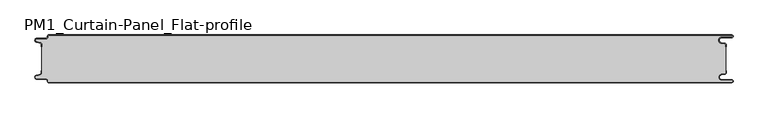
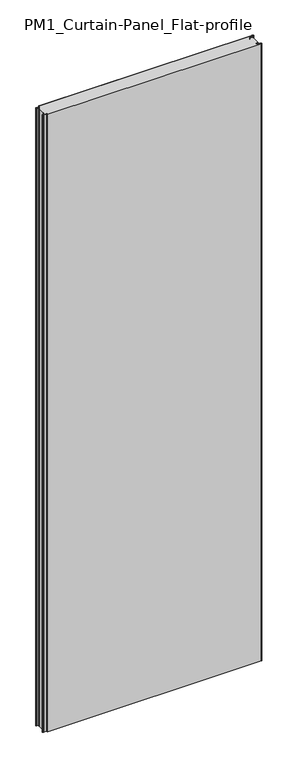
"""IFC4 building model written with IfcOpenShell, lengths in millimetres: plate geometry, PM1_Curtain-Panel_Flat-profile : ACH_PM1_Stone-wool-Panel_80M."""

from ifc_helpers import new_model, si_unit, point, frame_2d, origin, origin_with_axes, place, context, project, spatial, polyline, circle_curve, trimmed, segment, composite_curve, outline, extrude, source, transform, mapped, element, save


def pm1_curtain_panel_flat_profile_9c3fc237(model_context):
    return source(origin(), model_context, "Body", "SweptSolid", [
        extrude(outline(composite_curve([segment(polyline([(-562.4, 0.0), (583.1, 0.0)]), True, "CONTINUOUS"), segment(trimmed(circle_curve(frame_2d((583.1, -2.5)), 2.5), [point((583.1, 0.0))], [point((583.1, -5.0))], False, "CARTESIAN"), True, "CONTINUOUS"), segment(polyline([(583.1, -5.0), (566.1, -5.0)]), True, "CONTINUOUS"), segment(trimmed(circle_curve(frame_2d((566.1, -9.0)), 4.0), [point((566.1, -5.0))], [point((565.4054075, -12.939231))], True, "CARTESIAN"), True, "CONTINUOUS"), segment(polyline([(565.4054075, -12.939231), (571.8514851, -14.075848)]), True, "CONTINUOUS"), segment(trimmed(circle_curve(frame_2d((571.4, -16.636348)), 2.6), [point((571.8514851, -14.075848))], [point((574.0, -16.636348))], False, "CARTESIAN"), True, "CONTINUOUS"), segment(polyline([(574.0, -16.636348), (574.0, -20.0), (573.2, -20.0), (573.2, -16.636348)]), True, "CONTINUOUS"), segment(trimmed(circle_curve(frame_2d((571.4, -16.636348)), 1.8), [point((573.2, -16.636348))], [point((571.7125666, -14.863694))], True, "CARTESIAN"), True, "CONTINUOUS"), segment(polyline([(571.7125666, -14.863694), (565.266489, -13.7270771)]), True, "CONTINUOUS"), segment(trimmed(circle_curve(frame_2d((566.1, -9.0)), 4.8), [point((565.266489, -13.7270771))], [point((566.1, -4.2))], False, "CARTESIAN"), True, "CONTINUOUS"), segment(polyline([(566.1, -4.2), (583.1, -4.2)]), True, "CONTINUOUS"), segment(trimmed(circle_curve(frame_2d((583.1, -2.5)), 1.7), [point((583.1, -4.2))], [point((583.1, -0.8))], True, "CARTESIAN"), True, "CONTINUOUS"), segment(polyline([(583.1, -0.8), (-562.4, -0.8)]), True, "CONTINUOUS"), segment(trimmed(circle_curve(frame_2d((-562.4, -2.0)), 1.2), [point((-562.4, -0.8))], [point((-563.6, -2.0))], True, "CARTESIAN"), True, "CONTINUOUS"), segment(polyline([(-563.6, -2.0), (-563.6, -3.4)]), True, "CONTINUOUS"), segment(trimmed(circle_curve(frame_2d((-566.4, -3.4)), 2.8), [point((-563.6, -3.4))], [point((-566.4, -6.2))], False, "CARTESIAN"), True, "CONTINUOUS"), segment(polyline([(-566.4, -6.2), (-581.9, -6.2)]), True, "CONTINUOUS"), segment(trimmed(circle_curve(frame_2d((-581.9, -9.0)), 2.8), [point((-581.9, -6.2))], [point((-582.529863, -11.7282362))], True, "CARTESIAN"), True, "CONTINUOUS"), segment(polyline([(-582.529863, -11.7282362), (-576.370137, -13.150321)]), True, "CONTINUOUS"), segment(trimmed(circle_curve(frame_2d((-577.0, -15.878557)), 2.8), [point((-576.370137, -13.150321))], [point((-574.2, -15.878557))], False, "CARTESIAN"), True, "CONTINUOUS"), segment(polyline([(-574.2, -15.878557), (-574.2, -20.0), (-575.0, -20.0), (-575.0, -15.878557)]), True, "CONTINUOUS"), segment(trimmed(circle_curve(frame_2d((-577.0, -15.878557)), 2.0), [point((-575.0, -15.878557))], [point((-576.5500978, -13.9298169))], True, "CARTESIAN"), True, "CONTINUOUS"), segment(polyline([(-576.5500978, -13.9298169), (-582.7098239, -12.507732)]), True, "CONTINUOUS"), segment(trimmed(circle_curve(frame_2d((-581.9, -9.0)), 3.6), [point((-582.7098239, -12.507732))], [point((-581.9, -5.4))], False, "CARTESIAN"), True, "CONTINUOUS"), segment(polyline([(-581.9, -5.4), (-566.4, -5.4)]), True, "CONTINUOUS"), segment(trimmed(circle_curve(frame_2d((-566.4, -3.4)), 2.0), [point((-566.4, -5.4))], [point((-564.4, -3.4))], True, "CARTESIAN"), True, "CONTINUOUS"), segment(polyline([(-564.4, -3.4), (-564.4, -2.0)]), True, "CONTINUOUS"), segment(trimmed(circle_curve(frame_2d((-562.4, -2.0)), 2.0), [point((-564.4, -2.0))], [point((-562.4, 0.0))], False, "CARTESIAN"), True, "CONTINUOUS")], self_intersect=False)), origin_with_axes(), (0.0, 0.0, 1.0), 3500.0),
        extrude(outline(composite_curve([segment(polyline([(-574.2, -64.1214426), (-574.2, -15.8785573)]), True, "CONTINUOUS"), segment(trimmed(circle_curve(frame_2d((-577.0, -15.8785573)), 2.8), [point((-574.2, -15.8785573))], [point((-576.370137, -13.1503212))], True, "CARTESIAN"), True, "CONTINUOUS"), segment(polyline([(-576.370137, -13.1503212), (-582.5298631, -11.7282362)]), True, "CONTINUOUS"), segment(trimmed(circle_curve(frame_2d((-581.9, -9.0)), 2.8), [point((-582.5298631, -11.7282362))], [point((-581.9, -6.2))], False, "CARTESIAN"), True, "CONTINUOUS"), segment(polyline([(-581.9, -6.2), (-566.4000001, -6.2)]), True, "CONTINUOUS"), segment(trimmed(circle_curve(frame_2d((-566.4000001, -3.4)), 2.8), [point((-566.4000001, -6.2))], [point((-563.6000001, -3.4))], True, "CARTESIAN"), True, "CONTINUOUS"), segment(polyline([(-563.6000001, -3.4), (-563.6000001, -2.0)]), True, "CONTINUOUS"), segment(trimmed(circle_curve(frame_2d((-562.4000001, -2.0)), 1.2), [point((-563.6000001, -2.0))], [point((-562.4000001, -0.8))], False, "CARTESIAN"), True, "CONTINUOUS"), segment(polyline([(-562.4000001, -0.8), (583.1, -0.8)]), True, "CONTINUOUS"), segment(trimmed(circle_curve(frame_2d((583.1, -2.5)), 1.7), [point((583.1, -0.8))], [point((583.1, -4.2))], False, "CARTESIAN"), True, "CONTINUOUS"), segment(polyline([(583.1, -4.2), (566.1, -4.2)]), True, "CONTINUOUS"), segment(trimmed(circle_curve(frame_2d((566.1, -9.0)), 4.8), [point((566.1, -4.2))], [point((565.2664883, -13.7270771))], True, "CARTESIAN"), True, "CONTINUOUS"), segment(polyline([(565.2664883, -13.7270771), (571.7125668, -14.8636953)]), True, "CONTINUOUS"), segment(trimmed(circle_curve(frame_2d((571.4, -16.6363492)), 1.8), [point((571.7125668, -14.8636953))], [point((573.2, -16.6363492))], False, "CARTESIAN"), True, "CONTINUOUS"), segment(polyline([(573.2, -16.6363492), (573.2, -63.3636508)]), True, "CONTINUOUS"), segment(trimmed(circle_curve(frame_2d((571.4, -63.3636508)), 1.8), [point((573.2, -63.3636508))], [point((571.7125668, -65.1363047))], False, "CARTESIAN"), True, "CONTINUOUS"), segment(polyline([(571.7125668, -65.1363047), (565.2664883, -66.2729229)]), True, "CONTINUOUS"), segment(trimmed(circle_curve(frame_2d((566.1, -71.0)), 4.8), [point((565.2664883, -66.2729229))], [point((566.1, -75.8))], True, "CARTESIAN"), True, "CONTINUOUS"), segment(polyline([(566.1, -75.8), (583.1, -75.8)]), True, "CONTINUOUS"), segment(trimmed(circle_curve(frame_2d((583.1, -77.5)), 1.7), [point((583.1, -75.8))], [point((583.1, -79.2))], False, "CARTESIAN"), True, "CONTINUOUS"), segment(polyline([(583.1, -79.2), (-562.4000001, -79.2)]), True, "CONTINUOUS"), segment(trimmed(circle_curve(frame_2d((-562.4000001, -78.0)), 1.2), [point((-562.4000001, -79.2))], [point((-563.6000001, -78.0))], False, "CARTESIAN"), True, "CONTINUOUS"), segment(polyline([(-563.6000001, -78.0), (-563.6000001, -76.6)]), True, "CONTINUOUS"), segment(trimmed(circle_curve(frame_2d((-566.4000001, -76.6)), 2.8), [point((-563.6000001, -76.6))], [point((-566.4000001, -73.8))], True, "CARTESIAN"), True, "CONTINUOUS"), segment(polyline([(-566.4000001, -73.8), (-581.9, -73.8)]), True, "CONTINUOUS"), segment(trimmed(circle_curve(frame_2d((-581.9, -71.0)), 2.8), [point((-581.9, -73.8))], [point((-582.5298631, -68.2717638))], False, "CARTESIAN"), True, "CONTINUOUS"), segment(polyline([(-582.5298631, -68.2717638), (-576.370137, -66.8496788)]), True, "CONTINUOUS"), segment(trimmed(circle_curve(frame_2d((-577.0, -64.1214426)), 2.8), [point((-576.370137, -66.8496788))], [point((-574.2, -64.1214426))], True, "CARTESIAN"), True, "CONTINUOUS")], self_intersect=False)), origin_with_axes(), (0.0, 0.0, 1.0), 3500.0),
        extrude(outline(composite_curve([segment(polyline([(583.1, -80.0), (-562.4, -80.0)]), True, "CONTINUOUS"), segment(trimmed(circle_curve(frame_2d((-562.4, -78.0)), 2.0), [point((-562.4, -80.0))], [point((-564.4, -78.0))], False, "CARTESIAN"), True, "CONTINUOUS"), segment(polyline([(-564.4, -78.0), (-564.4, -76.6)]), True, "CONTINUOUS"), segment(trimmed(circle_curve(frame_2d((-566.4, -76.6)), 2.0), [point((-564.4, -76.6))], [point((-566.4, -74.6))], True, "CARTESIAN"), True, "CONTINUOUS"), segment(polyline([(-566.4, -74.6), (-581.9, -74.6)]), True, "CONTINUOUS"), segment(trimmed(circle_curve(frame_2d((-581.9, -71.0)), 3.6), [point((-581.9, -74.6))], [point((-582.7098239, -67.4922678))], False, "CARTESIAN"), True, "CONTINUOUS"), segment(polyline([(-582.7098239, -67.4922678), (-576.5500979, -66.070183)]), True, "CONTINUOUS"), segment(trimmed(circle_curve(frame_2d((-577.0, -64.121443)), 2.0), [point((-576.5500979, -66.070183))], [point((-575.0, -64.121443))], True, "CARTESIAN"), True, "CONTINUOUS"), segment(polyline([(-575.0, -64.121443), (-575.0, -60.0), (-574.2, -60.0), (-574.2, -64.121443)]), True, "CONTINUOUS"), segment(trimmed(circle_curve(frame_2d((-577.0, -64.121443)), 2.8), [point((-574.2, -64.121443))], [point((-576.370137, -66.8496792))], False, "CARTESIAN"), True, "CONTINUOUS"), segment(polyline([(-576.370137, -66.8496792), (-582.529863, -68.271764)]), True, "CONTINUOUS"), segment(trimmed(circle_curve(frame_2d((-581.9, -71.0)), 2.8), [point((-582.529863, -68.271764))], [point((-581.9, -73.8))], True, "CARTESIAN"), True, "CONTINUOUS"), segment(polyline([(-581.9, -73.8), (-566.4, -73.8)]), True, "CONTINUOUS"), segment(trimmed(circle_curve(frame_2d((-566.4, -76.6)), 2.8), [point((-566.4, -73.8))], [point((-563.6, -76.6))], False, "CARTESIAN"), True, "CONTINUOUS"), segment(polyline([(-563.6, -76.6), (-563.6, -78.0)]), True, "CONTINUOUS"), segment(trimmed(circle_curve(frame_2d((-562.4, -78.0)), 1.2), [point((-563.6, -78.0))], [point((-562.4, -79.2))], True, "CARTESIAN"), True, "CONTINUOUS"), segment(polyline([(-562.4, -79.2), (583.1, -79.2)]), True, "CONTINUOUS"), segment(trimmed(circle_curve(frame_2d((583.1, -77.5)), 1.7), [point((583.1, -79.2))], [point((583.1, -75.8))], True, "CARTESIAN"), True, "CONTINUOUS"), segment(polyline([(583.1, -75.8), (566.1, -75.8)]), True, "CONTINUOUS"), segment(trimmed(circle_curve(frame_2d((566.1, -71.0)), 4.8), [point((566.1, -75.8))], [point((565.266489, -66.2729227))], False, "CARTESIAN"), True, "CONTINUOUS"), segment(polyline([(565.266489, -66.2729227), (571.7125666, -65.1363058)]), True, "CONTINUOUS"), segment(trimmed(circle_curve(frame_2d((571.4, -63.363652)), 1.8), [point((571.7125666, -65.1363058))], [point((573.2, -63.363652))], True, "CARTESIAN"), True, "CONTINUOUS"), segment(polyline([(573.2, -63.363652), (573.2, -60.0), (574.0, -60.0), (574.0, -63.363652)]), True, "CONTINUOUS"), segment(trimmed(circle_curve(frame_2d((571.4, -63.363652)), 2.6), [point((574.0, -63.363652))], [point((571.8514851, -65.9241522))], False, "CARTESIAN"), True, "CONTINUOUS"), segment(polyline([(571.8514851, -65.9241522), (565.4054075, -67.0607691)]), True, "CONTINUOUS"), segment(trimmed(circle_curve(frame_2d((566.1, -71.0)), 4.0), [point((565.4054075, -67.0607691))], [point((566.1, -75.0))], True, "CARTESIAN"), True, "CONTINUOUS"), segment(polyline([(566.1, -75.0), (583.1, -75.0)]), True, "CONTINUOUS"), segment(trimmed(circle_curve(frame_2d((583.1, -77.5)), 2.5), [point((583.1, -75.0))], [point((583.1, -80.0))], False, "CARTESIAN"), True, "CONTINUOUS")], self_intersect=False)), origin_with_axes(), (0.0, 0.0, 1.0), 3500.0),
    ])


if __name__ == "__main__":
    model = new_model("IFC4")
    model_context = context("Model", 3, world=origin())
    ifc_project = project(units=[si_unit("LENGTHUNIT", "METRE", prefix="MILLI")], contexts=[model_context])
    site = spatial("IfcSite", under=ifc_project)
    building = spatial("IfcBuilding", under=site)
    placement = place(None, origin())
    pm1_curtain_panel_flat_profile_shape = pm1_curtain_panel_flat_profile_9c3fc237(model_context)
    element("IfcPlate", 1, ObjectType="PM1_Curtain-Panel_Flat-profile : ACH_PM1_Stone-wool-Panel_80M", at=placement, inside=building, context=model_context, shape_type="MappedRepresentation", body=[
        mapped(pm1_curtain_panel_flat_profile_shape, transform((0.0, 0.0, 0.0), x_axis=(1.0, 0.0, 0.0), y_axis=(0.0, 1.0, 0.0), z_axis=(0.0, 0.0, 1.0))),
    ])
    save(model, "model.ifc")
